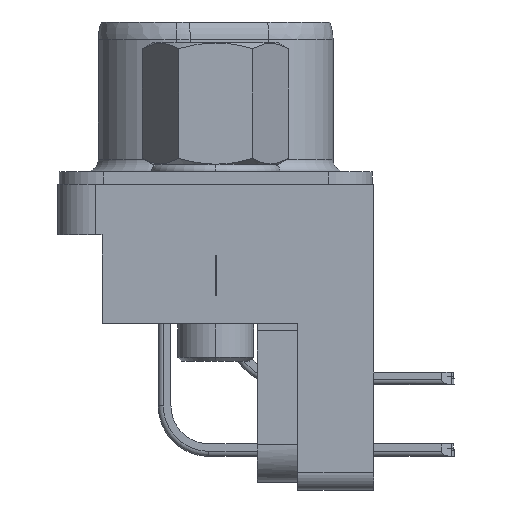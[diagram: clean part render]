
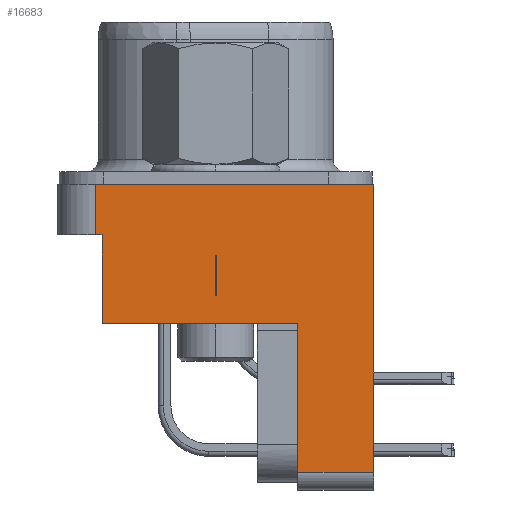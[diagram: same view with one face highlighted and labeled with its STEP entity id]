
A CAD part, left-side view. The second image highlights one B-rep face of the part: STEP entity #16683.
In plain terms, the highlighted planar face has unit normal (-1, 0, 0).
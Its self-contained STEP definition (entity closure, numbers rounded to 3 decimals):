
#464 = ORIENTED_EDGE ( 'NONE', *, *, #20150, .T. ) ;
#593 = DIRECTION ( 'NONE',  ( 0., 0., 1. ) ) ;
#652 = LINE ( 'NONE', #18938, #20347 ) ;
#890 = LINE ( 'NONE', #21910, #12489 ) ;
#1280 = CARTESIAN_POINT ( 'NONE',  ( -19.55, -3.25, -5.5 ) ) ;
#1443 = DIRECTION ( 'NONE',  ( 0., 0., -1. ) ) ;
#2043 = EDGE_LOOP ( 'NONE', ( #10526, #15413, #2864, #29708, #23205, #6942, #23513, #6744, #464, #24401 ) ) ;
#2096 = LINE ( 'NONE', #26854, #9470 ) ;
#2372 = ORIENTED_EDGE ( 'NONE', *, *, #18841, .F. ) ;
#2466 = VERTEX_POINT ( 'NONE', #1280 ) ;
#2806 = VECTOR ( 'NONE', #5664, 1000. ) ;
#2864 = ORIENTED_EDGE ( 'NONE', *, *, #8864, .F. ) ;
#2898 = VERTEX_POINT ( 'NONE', #9705 ) ;
#3274 = CARTESIAN_POINT ( 'NONE',  ( -19.55, 0.017, -2.8 ) ) ;
#3521 = EDGE_LOOP ( 'NONE', ( #2372, #24729, #12972, #24182 ) ) ;
#3610 = VERTEX_POINT ( 'NONE', #29312 ) ;
#3779 = VECTOR ( 'NONE', #20454, 1000. ) ;
#4013 = CARTESIAN_POINT ( 'NONE',  ( -19.55, 4.5, -5.5 ) ) ;
#4105 = EDGE_CURVE ( 'NONE', #26273, #5692, #6330, .T. ) ;
#4399 = LINE ( 'NONE', #17458, #20197 ) ;
#4957 = VERTEX_POINT ( 'NONE', #16750 ) ;
#5033 = LINE ( 'NONE', #29460, #17382 ) ;
#5664 = DIRECTION ( 'NONE',  ( 0., -1., 0. ) ) ;
#5692 = VERTEX_POINT ( 'NONE', #5708 ) ;
#5708 = CARTESIAN_POINT ( 'NONE',  ( -19.55, 4.5, -2. ) ) ;
#6297 = PLANE ( 'NONE',  #17610 ) ;
#6330 = LINE ( 'NONE', #25953, #9423 ) ;
#6618 = VERTEX_POINT ( 'NONE', #13118 ) ;
#6683 = CARTESIAN_POINT ( 'NONE',  ( -19.55, 4.75, 0. ) ) ;
#6744 = ORIENTED_EDGE ( 'NONE', *, *, #28160, .T. ) ;
#6942 = ORIENTED_EDGE ( 'NONE', *, *, #8456, .T. ) ;
#7293 = CARTESIAN_POINT ( 'NONE',  ( -19.55, 4.75, -2. ) ) ;
#7896 = FACE_BOUND ( 'NONE', #3521, .T. ) ;
#8131 = VECTOR ( 'NONE', #12580, 1000. ) ;
#8456 = EDGE_CURVE ( 'NONE', #17992, #4957, #21536, .T. ) ;
#8555 = CARTESIAN_POINT ( 'NONE',  ( -19.55, 6.25, -5.5 ) ) ;
#8808 = CARTESIAN_POINT ( 'NONE',  ( -19.55, -3.25, -5.5 ) ) ;
#8864 = EDGE_CURVE ( 'NONE', #8910, #6618, #17662, .T. ) ;
#8871 = CARTESIAN_POINT ( 'NONE',  ( -19.55, 6.25, 0. ) ) ;
#8893 = VERTEX_POINT ( 'NONE', #7293 ) ;
#8910 = VERTEX_POINT ( 'NONE', #12127 ) ;
#8924 = DIRECTION ( 'NONE',  ( 0., 0., 1. ) ) ;
#8979 = DIRECTION ( 'NONE',  ( 0., -1., 0. ) ) ;
#9423 = VECTOR ( 'NONE', #28880, 1000. ) ;
#9470 = VECTOR ( 'NONE', #18487, 1000. ) ;
#9705 = CARTESIAN_POINT ( 'NONE',  ( -19.55, 0.017, -4.4 ) ) ;
#9791 = DIRECTION ( 'NONE',  ( 0., 0., 1. ) ) ;
#10198 = FACE_OUTER_BOUND ( 'NONE', #2043, .T. ) ;
#10456 = EDGE_CURVE ( 'NONE', #3610, #17992, #2096, .T. ) ;
#10526 = ORIENTED_EDGE ( 'NONE', *, *, #12172, .T. ) ;
#12127 = CARTESIAN_POINT ( 'NONE',  ( -19.55, -3.25, -10.473 ) ) ;
#12172 = EDGE_CURVE ( 'NONE', #26273, #2466, #18631, .T. ) ;
#12218 = DIRECTION ( 'NONE',  ( 0., 0., -1. ) ) ;
#12489 = VECTOR ( 'NONE', #12218, 1000. ) ;
#12580 = DIRECTION ( 'NONE',  ( 0., 1., 0. ) ) ;
#12623 = CARTESIAN_POINT ( 'NONE',  ( -19.55, -0.017, -2.8 ) ) ;
#12972 = ORIENTED_EDGE ( 'NONE', *, *, #14265, .F. ) ;
#13118 = CARTESIAN_POINT ( 'NONE',  ( -19.55, -3.25, -5.8 ) ) ;
#13284 = DIRECTION ( 'NONE',  ( 0., 0., 1. ) ) ;
#13352 = CARTESIAN_POINT ( 'NONE',  ( -19.55, 7.5, -2. ) ) ;
#13843 = VERTEX_POINT ( 'NONE', #12623 ) ;
#13888 = CARTESIAN_POINT ( 'NONE',  ( -19.55, -3.25, -5.5 ) ) ;
#14265 = EDGE_CURVE ( 'NONE', #2898, #29522, #4399, .T. ) ;
#14361 = EDGE_CURVE ( 'NONE', #23675, #4957, #27337, .T. ) ;
#14607 = VECTOR ( 'NONE', #593, 1000. ) ;
#15145 = CARTESIAN_POINT ( 'NONE',  ( -19.55, 6.25, -5.5 ) ) ;
#15413 = ORIENTED_EDGE ( 'NONE', *, *, #17332, .F. ) ;
#15433 = LINE ( 'NONE', #19578, #8131 ) ;
#16683 = ADVANCED_FACE ( 'NONE', ( #7896, #10198 ), #6297, .T. ) ;
#16750 = CARTESIAN_POINT ( 'NONE',  ( -19.55, -6.25, 0. ) ) ;
#17332 = EDGE_CURVE ( 'NONE', #6618, #2466, #17882, .T. ) ;
#17382 = VECTOR ( 'NONE', #9791, 1000. ) ;
#17458 = CARTESIAN_POINT ( 'NONE',  ( -19.55, 2.75, -4.4 ) ) ;
#17610 = AXIS2_PLACEMENT_3D ( 'NONE', #8555, #28222, #13284 ) ;
#17662 = LINE ( 'NONE', #8808, #29302 ) ;
#17882 = LINE ( 'NONE', #13888, #31470 ) ;
#17992 = VERTEX_POINT ( 'NONE', #20068 ) ;
#18487 = DIRECTION ( 'NONE',  ( 0., -1., 0. ) ) ;
#18631 = LINE ( 'NONE', #15145, #2806 ) ;
#18841 = EDGE_CURVE ( 'NONE', #13843, #29893, #15433, .T. ) ;
#18938 = CARTESIAN_POINT ( 'NONE',  ( -19.55, -3.25, -5.5 ) ) ;
#19578 = CARTESIAN_POINT ( 'NONE',  ( -19.55, 2.75, -2.8 ) ) ;
#20068 = CARTESIAN_POINT ( 'NONE',  ( -19.55, -6.25, -11.4 ) ) ;
#20150 = EDGE_CURVE ( 'NONE', #8893, #5692, #20374, .T. ) ;
#20197 = VECTOR ( 'NONE', #31931, 1000. ) ;
#20347 = VECTOR ( 'NONE', #21642, 1000. ) ;
#20374 = LINE ( 'NONE', #13352, #3779 ) ;
#20379 = EDGE_CURVE ( 'NONE', #3610, #8910, #652, .T. ) ;
#20454 = DIRECTION ( 'NONE',  ( 0., -1., 0. ) ) ;
#20771 = CARTESIAN_POINT ( 'NONE',  ( -19.55, -6.25, -5.5 ) ) ;
#21536 = LINE ( 'NONE', #20771, #14607 ) ;
#21642 = DIRECTION ( 'NONE',  ( 0., 0., 1. ) ) ;
#21798 = EDGE_CURVE ( 'NONE', #13843, #29522, #24610, .T. ) ;
#21910 = CARTESIAN_POINT ( 'NONE',  ( -19.55, 4.75, -5.5 ) ) ;
#23205 = ORIENTED_EDGE ( 'NONE', *, *, #10456, .T. ) ;
#23513 = ORIENTED_EDGE ( 'NONE', *, *, #14361, .F. ) ;
#23675 = VERTEX_POINT ( 'NONE', #6683 ) ;
#24182 = ORIENTED_EDGE ( 'NONE', *, *, #29701, .T. ) ;
#24401 = ORIENTED_EDGE ( 'NONE', *, *, #4105, .F. ) ;
#24610 = LINE ( 'NONE', #31523, #25789 ) ;
#24729 = ORIENTED_EDGE ( 'NONE', *, *, #21798, .T. ) ;
#25789 = VECTOR ( 'NONE', #1443, 1000. ) ;
#25953 = CARTESIAN_POINT ( 'NONE',  ( -19.55, 4.5, -5.5 ) ) ;
#26163 = VECTOR ( 'NONE', #8979, 1000. ) ;
#26236 = CARTESIAN_POINT ( 'NONE',  ( -19.55, -0.017, -4.4 ) ) ;
#26273 = VERTEX_POINT ( 'NONE', #4013 ) ;
#26854 = CARTESIAN_POINT ( 'NONE',  ( -19.55, -6.25, -11.4 ) ) ;
#27337 = LINE ( 'NONE', #8871, #26163 ) ;
#28160 = EDGE_CURVE ( 'NONE', #23675, #8893, #890, .T. ) ;
#28222 = DIRECTION ( 'NONE',  ( -1., 0., 0. ) ) ;
#28295 = DIRECTION ( 'NONE',  ( 0., 0., 1. ) ) ;
#28880 = DIRECTION ( 'NONE',  ( 0., 0., 1. ) ) ;
#29302 = VECTOR ( 'NONE', #8924, 1000. ) ;
#29312 = CARTESIAN_POINT ( 'NONE',  ( -19.55, -3.25, -11.4 ) ) ;
#29460 = CARTESIAN_POINT ( 'NONE',  ( -19.55, 0.017, -5.8 ) ) ;
#29522 = VERTEX_POINT ( 'NONE', #26236 ) ;
#29701 = EDGE_CURVE ( 'NONE', #2898, #29893, #5033, .T. ) ;
#29708 = ORIENTED_EDGE ( 'NONE', *, *, #20379, .F. ) ;
#29893 = VERTEX_POINT ( 'NONE', #3274 ) ;
#31470 = VECTOR ( 'NONE', #28295, 1000. ) ;
#31523 = CARTESIAN_POINT ( 'NONE',  ( -19.55, -0.017, -5.8 ) ) ;
#31931 = DIRECTION ( 'NONE',  ( 0., -1., 0. ) ) ;
